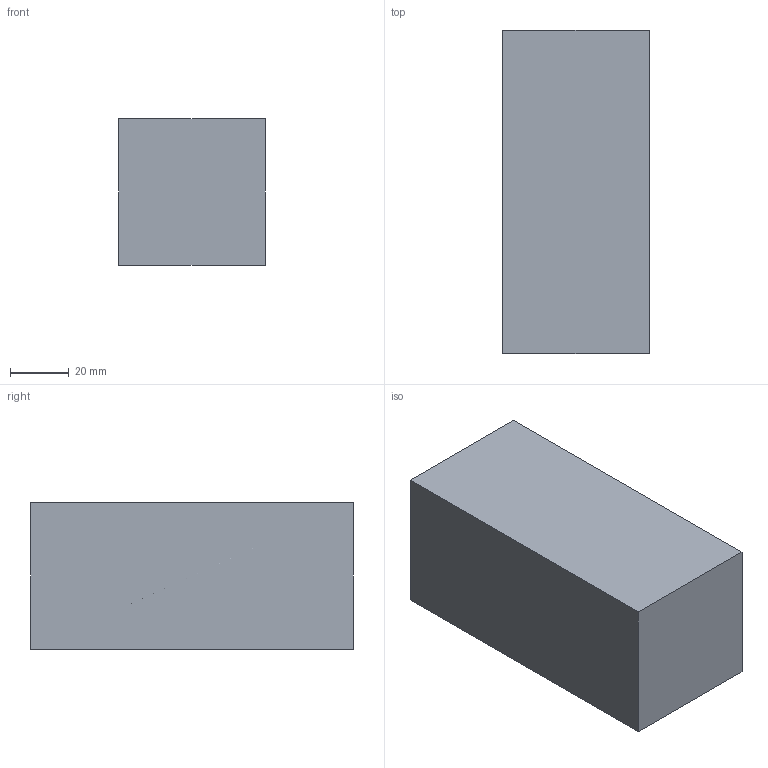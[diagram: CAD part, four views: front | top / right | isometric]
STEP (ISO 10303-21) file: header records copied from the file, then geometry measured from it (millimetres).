
FILE_DESCRIPTION (( 'STEP AP214' ), '1' );
FILE_NAME ('0337253.STEP', '2025-11-17T12:56:32', ( '' ), ( '' ), 'SwSTEP 2.0', 'SolidWorks 2024', '' );
FILE_SCHEMA (( 'AUTOMOTIVE_DESIGN' ));
Length unit declared in the file: millimetre
Products named in the file (1): 0337253
Bounding box: 50 x 110 x 50 mm (x, y, z)
Volume: 230048.5 mm3; surface area: 34301.5 mm2
Topology: 1 solids, 1 shells, 35 faces, 72 edges, 39 vertices
Faces by surface type: cone 14, cylinder 12, plane 7, torus 2
Entity records: 915 total; most frequent: DIRECTION 174, CARTESIAN_POINT 145, ORIENTED_EDGE 140, EDGE_CURVE 70, AXIS2_PLACEMENT_3D 68, VERTEX_POINT 39, VECTOR 38, LINE 38
